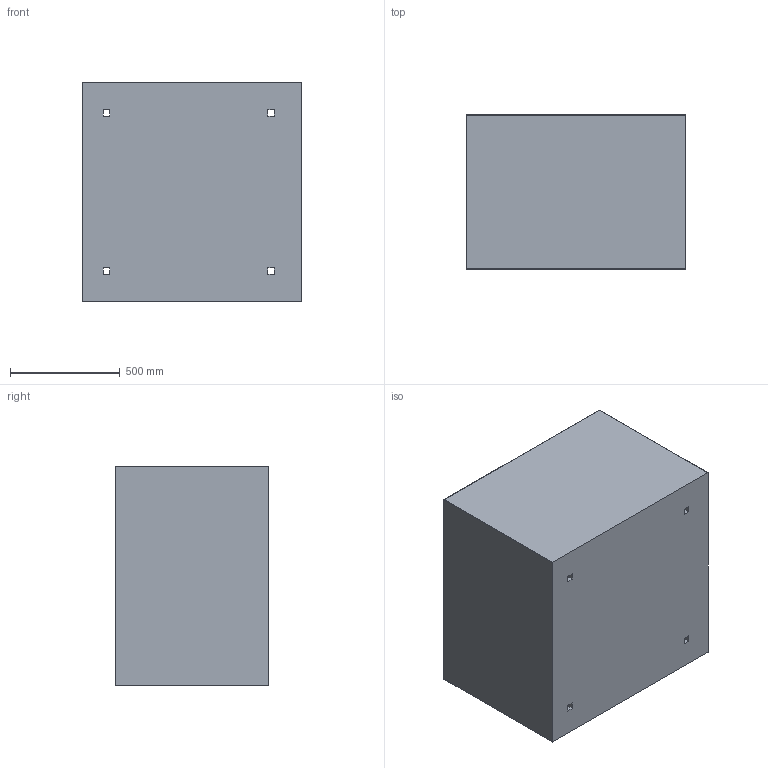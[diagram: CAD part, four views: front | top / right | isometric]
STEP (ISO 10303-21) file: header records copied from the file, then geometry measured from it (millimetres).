
FILE_DESCRIPTION(/* description */ (''),/* implementation_level */ '2;1');
FILE_NAME(/* name */ 'C:\Mac\Home\Desktop\btnv\inventor\grande10010070\donica betonowa Grande 100x100x70cm.stp',/* time_stamp */ '2025-11-10T22:38:15+01:00',/* author */ ('dwasik'),/* organization */ (''),/* preprocessor_version */ 'ST-DEVELOPER v15.6',/* originating_system */ 'Autodesk Inventor 2015',/* authorisation */ '');
FILE_SCHEMA (('AUTOMOTIVE_DESIGN { 1 0 10303 214 3 1 1 }'));
Length unit declared in the file: millimetre
Products named in the file (1): Part1
Bounding box: 1000 x 700 x 1000 mm (x, y, z)
Volume: 173416716.1 mm3; surface area: 7173514.9 mm2
Topology: 5 solids, 5 shells, 51 faces, 108 edges, 68 vertices
Faces by surface type: plane 35, cylinder 12, sphere 4
Full cylindrical faces by diameter (mm): 25 x4
Entity records: 1366 total; most frequent: DIRECTION 232, CARTESIAN_POINT 224, ORIENTED_EDGE 208, EDGE_CURVE 104, LINE 80, VECTOR 80, AXIS2_PLACEMENT_3D 76, VERTEX_POINT 68
